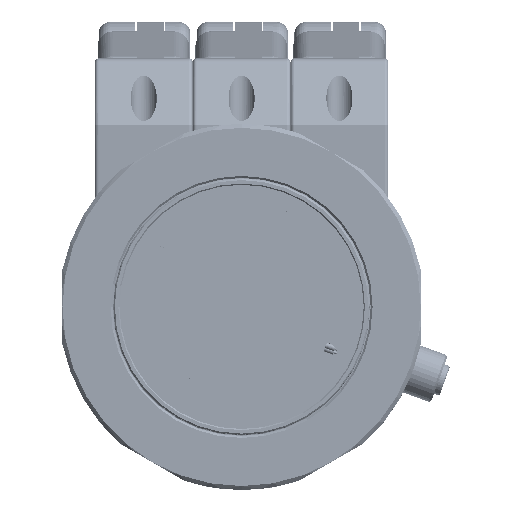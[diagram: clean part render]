
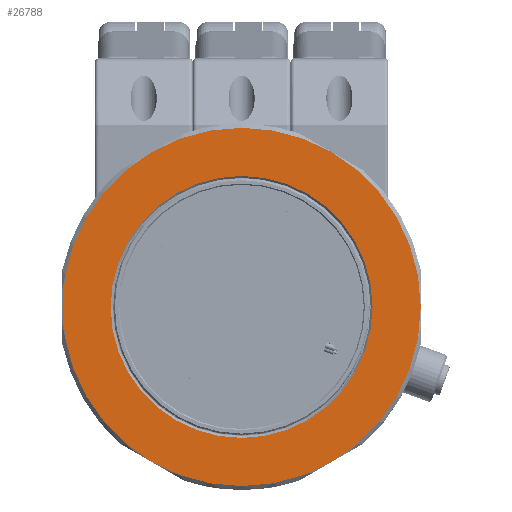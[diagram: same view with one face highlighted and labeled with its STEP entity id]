
A CAD part, top view. The second image highlights one B-rep face of the part: STEP entity #26788.
In plain terms, the highlighted planar face has unit normal (0, 0, 1) as drawn and (0, -1, 0) by its records, which use the part's own axes.
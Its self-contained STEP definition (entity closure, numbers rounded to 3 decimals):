
#302 = CARTESIAN_POINT ( 'NONE',  ( -23.25, 0., -40.27 ) ) ;
#1158 = EDGE_CURVE ( 'NONE', #20806, #20760, #52902, .T. ) ;
#1567 = CARTESIAN_POINT ( 'NONE',  ( 23.25, 0., 40.27 ) ) ;
#3647 = AXIS2_PLACEMENT_3D ( 'NONE', #14100, #46406, #18778 ) ;
#3782 = EDGE_CURVE ( 'NONE', #57664, #19586, #49724, .T. ) ;
#4427 = AXIS2_PLACEMENT_3D ( 'NONE', #24518, #56689, #29152 ) ;
#6584 = EDGE_CURVE ( 'NONE', #19586, #30408, #46397, .T. ) ;
#6935 = ORIENTED_EDGE ( 'NONE', *, *, #3782, .T. ) ;
#7607 = DIRECTION ( 'NONE',  ( 0., -1., 0. ) ) ;
#8503 = EDGE_CURVE ( 'NONE', #40308, #24021, #12929, .T. ) ;
#11896 = CARTESIAN_POINT ( 'NONE',  ( 0., 0., 0. ) ) ;
#12436 = CARTESIAN_POINT ( 'NONE',  ( 0., 0., 0. ) ) ;
#12521 = AXIS2_PLACEMENT_3D ( 'NONE', #42418, #14773, #47065 ) ;
#12657 = ORIENTED_EDGE ( 'NONE', *, *, #34737, .T. ) ;
#12750 = ORIENTED_EDGE ( 'NONE', *, *, #8503, .T. ) ;
#12929 = CIRCLE ( 'NONE', #14476, 46.5 ) ;
#14100 = CARTESIAN_POINT ( 'NONE',  ( 0., 0., 0. ) ) ;
#14476 = AXIS2_PLACEMENT_3D ( 'NONE', #45338, #17713, #49956 ) ;
#14665 = AXIS2_PLACEMENT_3D ( 'NONE', #12436, #44749, #17135 ) ;
#14773 = DIRECTION ( 'NONE',  ( 0., -1., 0. ) ) ;
#16547 = DIRECTION ( 'NONE',  ( 0., 0., -1. ) ) ;
#16699 = PLANE ( 'NONE',  #27911 ) ;
#17135 = DIRECTION ( 'NONE',  ( 0., 0., -1. ) ) ;
#17713 = DIRECTION ( 'NONE',  ( 0., -1., 0. ) ) ;
#17902 = CARTESIAN_POINT ( 'NONE',  ( 23.25, 0., -40.27 ) ) ;
#18778 = DIRECTION ( 'NONE',  ( 0., 0., -1. ) ) ;
#19028 = EDGE_LOOP ( 'NONE', ( #36901, #56544 ) ) ;
#19586 = VERTEX_POINT ( 'NONE', #302 ) ;
#20760 = VERTEX_POINT ( 'NONE', #1567 ) ;
#20806 = VERTEX_POINT ( 'NONE', #38725 ) ;
#22144 = CARTESIAN_POINT ( 'NONE',  ( 0., 0., 34. ) ) ;
#22147 = FACE_BOUND ( 'NONE', #19028, .T. ) ;
#22306 = CARTESIAN_POINT ( 'NONE',  ( 0., 0., 46.5 ) ) ;
#24021 = VERTEX_POINT ( 'NONE', #53391 ) ;
#24151 = VERTEX_POINT ( 'NONE', #22144 ) ;
#24518 = CARTESIAN_POINT ( 'NONE',  ( 0., 0., 0. ) ) ;
#24532 = DIRECTION ( 'NONE',  ( 0., -1., 0. ) ) ;
#25139 = CIRCLE ( 'NONE', #26418, 46.5 ) ;
#26418 = AXIS2_PLACEMENT_3D ( 'NONE', #11896, #44190, #16547 ) ;
#26788 = ADVANCED_FACE ( 'NONE', ( #22147, #32973 ), #16699, .T. ) ;
#26874 = DIRECTION ( 'NONE',  ( 0., -1., 0. ) ) ;
#26939 = DIRECTION ( 'NONE',  ( 0., 1., 0. ) ) ;
#27821 = CIRCLE ( 'NONE', #34120, 34. ) ;
#27845 = EDGE_CURVE ( 'NONE', #20760, #40308, #25139, .T. ) ;
#27911 = AXIS2_PLACEMENT_3D ( 'NONE', #35259, #7607, #39897 ) ;
#27976 = AXIS2_PLACEMENT_3D ( 'NONE', #54429, #26874, #59079 ) ;
#29152 = DIRECTION ( 'NONE',  ( 0., 0., -1. ) ) ;
#29337 = CIRCLE ( 'NONE', #56420, 46.5 ) ;
#29737 = CARTESIAN_POINT ( 'NONE',  ( 0., 0., -34. ) ) ;
#30408 = VERTEX_POINT ( 'NONE', #17902 ) ;
#31799 = ORIENTED_EDGE ( 'NONE', *, *, #27845, .T. ) ;
#32973 = FACE_OUTER_BOUND ( 'NONE', #54230, .T. ) ;
#34120 = AXIS2_PLACEMENT_3D ( 'NONE', #54502, #26939, #59144 ) ;
#34737 = EDGE_CURVE ( 'NONE', #24021, #57664, #29337, .T. ) ;
#35259 = CARTESIAN_POINT ( 'NONE',  ( 33.5, 0., 0. ) ) ;
#35871 = ORIENTED_EDGE ( 'NONE', *, *, #1158, .T. ) ;
#36166 = EDGE_CURVE ( 'NONE', #49590, #24151, #27821, .T. ) ;
#36901 = ORIENTED_EDGE ( 'NONE', *, *, #36166, .T. ) ;
#36935 = CIRCLE ( 'NONE', #12521, 46.5 ) ;
#38366 = EDGE_CURVE ( 'NONE', #30408, #20806, #36935, .T. ) ;
#38725 = CARTESIAN_POINT ( 'NONE',  ( 46.5, 0., 0. ) ) ;
#39897 = DIRECTION ( 'NONE',  ( 0., 0., -1. ) ) ;
#40308 = VERTEX_POINT ( 'NONE', #22306 ) ;
#42418 = CARTESIAN_POINT ( 'NONE',  ( 0., 0., 0. ) ) ;
#44190 = DIRECTION ( 'NONE',  ( 0., -1., 0. ) ) ;
#44749 = DIRECTION ( 'NONE',  ( 0., -1., 0. ) ) ;
#44860 = ORIENTED_EDGE ( 'NONE', *, *, #6584, .T. ) ;
#45338 = CARTESIAN_POINT ( 'NONE',  ( 0., 0., 0. ) ) ;
#46397 = CIRCLE ( 'NONE', #27976, 46.5 ) ;
#46406 = DIRECTION ( 'NONE',  ( 0., 1., 0. ) ) ;
#46522 = CARTESIAN_POINT ( 'NONE',  ( -46.5, 0., 0. ) ) ;
#47065 = DIRECTION ( 'NONE',  ( 0., 0., -1. ) ) ;
#47389 = EDGE_CURVE ( 'NONE', #24151, #49590, #56955, .T. ) ;
#49590 = VERTEX_POINT ( 'NONE', #29737 ) ;
#49724 = CIRCLE ( 'NONE', #14665, 46.5 ) ;
#49956 = DIRECTION ( 'NONE',  ( 0., 0., -1. ) ) ;
#52108 = CARTESIAN_POINT ( 'NONE',  ( 0., 0., 0. ) ) ;
#52902 = CIRCLE ( 'NONE', #4427, 46.5 ) ;
#53391 = CARTESIAN_POINT ( 'NONE',  ( -23.25, 0., 40.27 ) ) ;
#54230 = EDGE_LOOP ( 'NONE', ( #12657, #6935, #44860, #54693, #35871, #31799, #12750 ) ) ;
#54429 = CARTESIAN_POINT ( 'NONE',  ( 0., 0., 0. ) ) ;
#54502 = CARTESIAN_POINT ( 'NONE',  ( 0., 0., 0. ) ) ;
#54693 = ORIENTED_EDGE ( 'NONE', *, *, #38366, .T. ) ;
#56420 = AXIS2_PLACEMENT_3D ( 'NONE', #52108, #24532, #56712 ) ;
#56544 = ORIENTED_EDGE ( 'NONE', *, *, #47389, .T. ) ;
#56689 = DIRECTION ( 'NONE',  ( 0., -1., 0. ) ) ;
#56712 = DIRECTION ( 'NONE',  ( 0., 0., -1. ) ) ;
#56955 = CIRCLE ( 'NONE', #3647, 34. ) ;
#57664 = VERTEX_POINT ( 'NONE', #46522 ) ;
#59079 = DIRECTION ( 'NONE',  ( 0., 0., -1. ) ) ;
#59144 = DIRECTION ( 'NONE',  ( 0., 0., -1. ) ) ;
